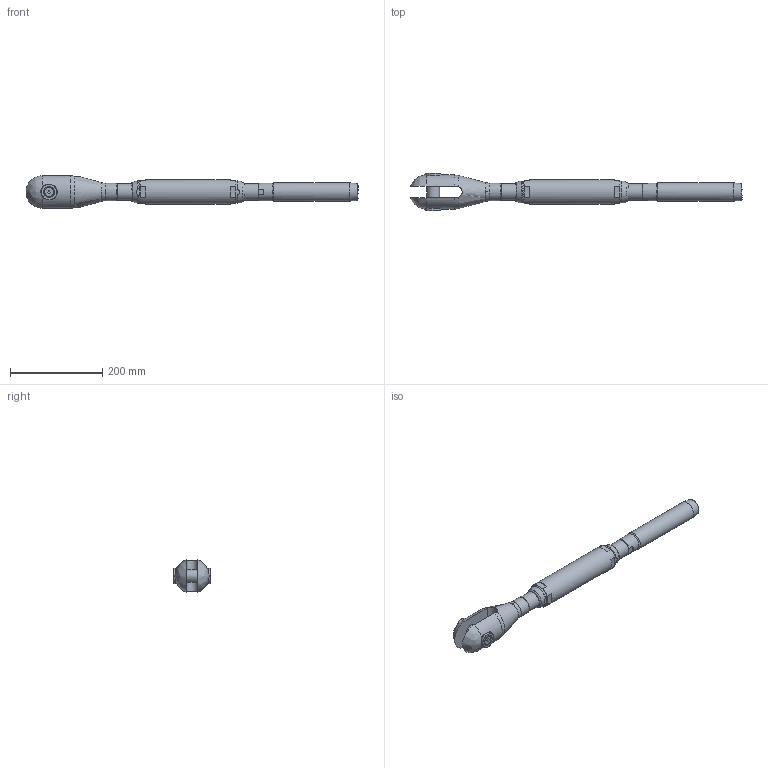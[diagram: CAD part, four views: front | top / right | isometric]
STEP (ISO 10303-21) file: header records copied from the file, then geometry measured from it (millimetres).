
FILE_DESCRIPTION(/* description */ (''),/* implementation_level */ '2;1');
FILE_NAME(/* name */ 'TBC 20_S355',/* time_stamp */ '2023-05-23T18:17:36+02:00',/* author */ (''),/* organization */ (''),/* preprocessor_version */ 'ST-DEVELOPER v16.5',/* originating_system */ 'Rhino 7.22',/* authorisation */ '');
FILE_SCHEMA (('CONFIG_CONTROL_DESIGN'));
Length unit declared in the file: millimetre
Products named in the file (1): Document
Bounding box: 718.97 x 81.65 x 70 mm (x, y, z)
Volume: 1227119.2 mm3; surface area: 198571.5 mm2
Topology: 10 solids, 10 shells, 142 faces, 389 edges, 268 vertices
Faces by surface type: plane 66, bspline 41, cylinder 35
Full cylindrical faces by diameter (mm): 10 x2, 10.106 x2, 12.5 x2, 19.22 x2, 28 x1, 30 x2, 32.752 x4, 34 x2, 36 x2, 38.1 x2, 40 x2, 54 x1
Entity records: 5977 total; most frequent: CARTESIAN_POINT 3517, ORIENTED_EDGE 770, EDGE_CURVE 385, VERTEX_POINT 268, EDGE_LOOP 161, B_SPLINE_CURVE_WITH_KNOTS 160, ADVANCED_FACE 142, FACE_OUTER_BOUND 142
